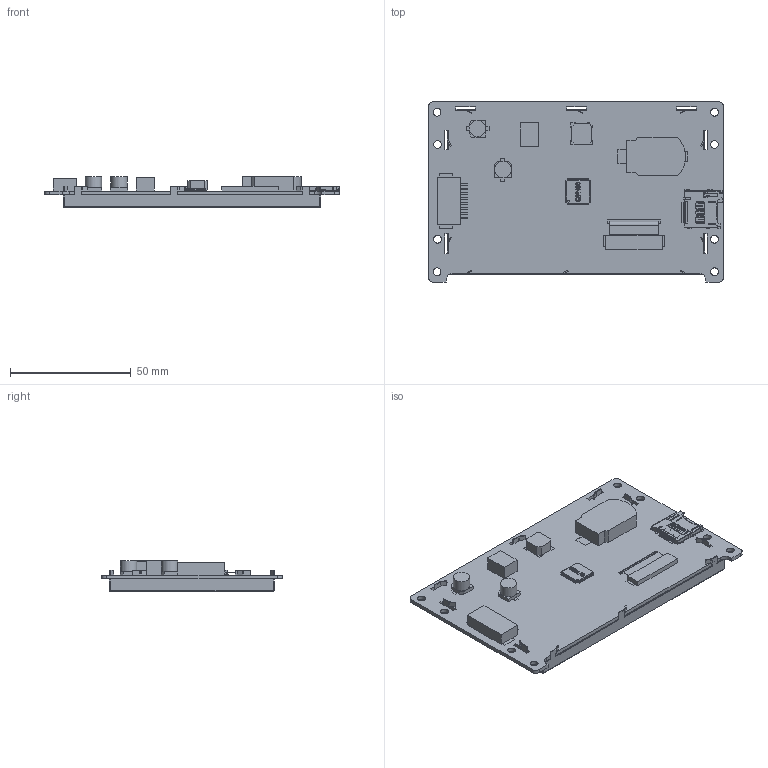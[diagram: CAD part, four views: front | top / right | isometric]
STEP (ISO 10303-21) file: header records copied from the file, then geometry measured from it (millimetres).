
FILE_DESCRIPTION(/* description */ (''),/* implementation_level */ '2;1');
FILE_NAME(/* name */ '',/* time_stamp */ '2021-08-24T10:19:05+08:00',/* author */ (''),/* organization */ (''),/* preprocessor_version */ 'ST-DEVELOPER v11',/* originating_system */ 'SIEMENS PLM Software NX 7.5',/* authorisation */ '');
FILE_SCHEMA (('AP203_CONFIGURATION_CONTROLLED_3D_DESIGN_OF_MECHANICAL_PARTS_AND_ASSEMBLIES_MIM_LF'));
Products named in the file (1): SDWb043T84N
Bounding box: 121.9 x 74.7 x 12.81 mm (x, y, z)
Volume: 46868.3 mm3; surface area: 46626.5 mm2
Topology: 17 solids, 17 shells, 2292 faces, 6679 edges, 4473 vertices
Faces by surface type: plane 1857, cylinder 427, bspline 7, cone 1
Full cylindrical faces by diameter (mm): 3.2 x8, 6.776 x2
Entity records: 77310 total; most frequent: CARTESIAN_POINT 13874, ORIENTED_EDGE 13184, DIRECTION 12034, EDGE_CURVE 6592, LINE 5732, VECTOR 5732, VERTEX_POINT 4333, AXIS2_PLACEMENT_3D 3151
